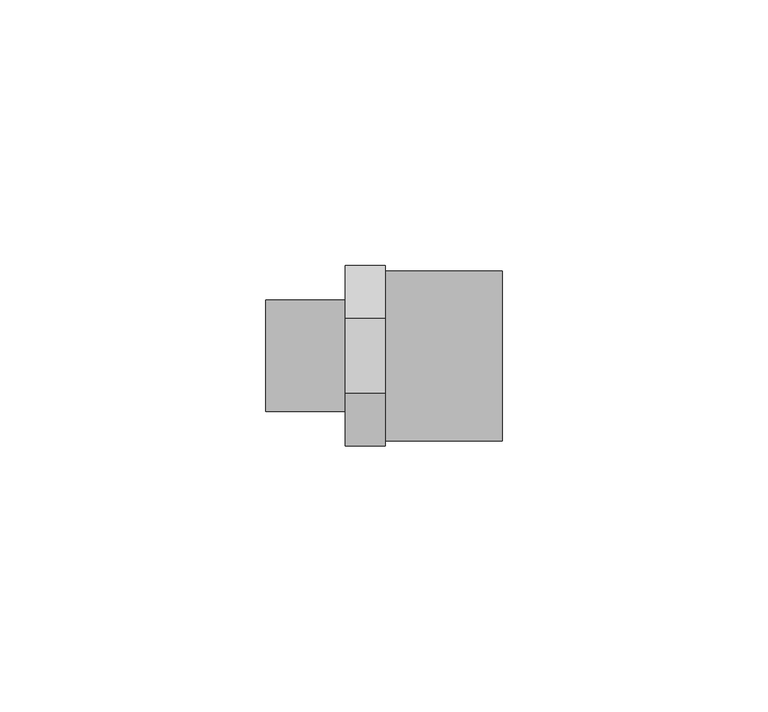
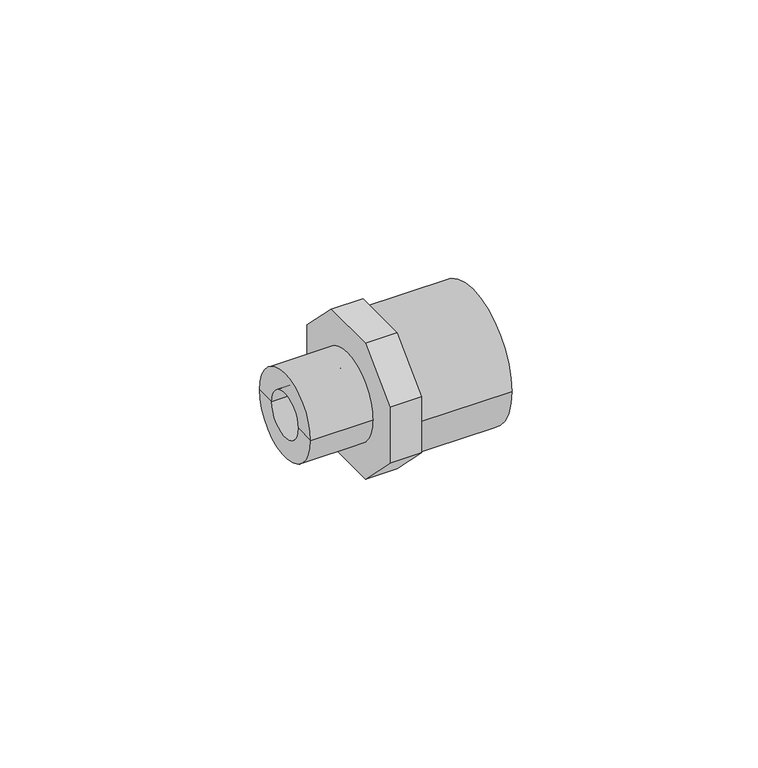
"""IFC4 building model written with IfcOpenShell, lengths in millimetres: pipe fitting geometry, Durapipe_PipeFitting_PVC_MaleThreadedAdaptors : 32 x 25 x 1⁄2."""

import ifcopenshell
import ifcopenshell.guid

model = None  # the IFC model being written
_history = None  # IfcOwnerHistory: only IFC2X3 demands one
_inside = {}  # id of a spatial element -> (the spatial element, [elements in it])
_under = {}  # id of a project, library or spatial element -> (it, [spatial elements below it])
_declared = {}  # id of a project -> (the project, [libraries it declares])
_typed = {}  # id of a type object -> (the type object, [elements of that type])
_made_of = {}  # id of a material, layer set ... -> (it, [elements and type objects made of it])


def new_model(schema):
    """Start an empty IFC model of exactly this schema.

    Asked for "IFC4X3", IfcOpenShell would pick the latest addendum, in which some entities
    have other attributes; the version numbers below select the first issue.
    IFC2X3 requires an IfcOwnerHistory on every rooted entity: one is made here for all.
    """
    global model, _history
    if schema == "IFC4X3":
        model = ifcopenshell.file(schema_version=(4, 3, 0, 0))
    else:
        model = ifcopenshell.file(schema=schema)
    _inside.clear()
    _under.clear()
    _declared.clear()
    _typed.clear()
    _made_of.clear()
    _history = None
    if model.schema == "IFC2X3":
        org = make("IfcOrganization", Name="unknown")
        user = make(
            "IfcPersonAndOrganization",
            ThePerson=make("IfcPerson", FamilyName="unknown"),
            TheOrganization=org,
        )
        app = make(
            "IfcApplication",
            ApplicationDeveloper=org,
            Version="unknown",
            ApplicationFullName="unknown",
            ApplicationIdentifier="unknown",
        )
        _history = make(
            "IfcOwnerHistory",
            OwningUser=user,
            OwningApplication=app,
            ChangeAction="ADDED",
            CreationDate=0,
        )
    return model


def make(cls, **values):
    """One entity of the class cls with the attributes given. An attribute that is None is left unset."""
    return model.create_entity(
        cls, **{name: value for name, value in values.items() if value is not None}
    )


def rooted(cls, **values):
    """An entity with a GlobalId (a new one), such as an element, a storey or a relation."""
    return make(cls, GlobalId=ifcopenshell.guid.new(), OwnerHistory=_history, **values)


def si_unit(unit_type, name, prefix=None):
    """IfcSIUnit, for example si_unit("LENGTHUNIT", "METRE", prefix="MILLI")."""
    return make("IfcSIUnit", UnitType=unit_type, Prefix=prefix, Name=name)


def assignment(units):
    """IfcUnitAssignment: the units of a project."""
    return None if units is None else make("IfcUnitAssignment", Units=units)


def point(xyz):
    """IfcCartesianPoint."""
    return None if xyz is None else make("IfcCartesianPoint", Coordinates=xyz)


def direction(xyz):
    """IfcDirection."""
    return None if xyz is None else make("IfcDirection", DirectionRatios=xyz)


def frame(location, z_axis=None, x_axis=None):
    """IfcAxis2Placement3D, a coordinate frame: its origin and axes. An axis left out is left unset."""
    return make(
        "IfcAxis2Placement3D",
        Location=point(location),
        Axis=direction(z_axis),
        RefDirection=direction(x_axis),
    )


def frame_2d(location, x_axis=None):
    """IfcAxis2Placement2D, a coordinate frame in the plane: its origin and x axis."""
    return make(
        "IfcAxis2Placement2D", Location=point(location), RefDirection=direction(x_axis)
    )


def origin():
    """The frame at (0, 0, 0) with its axes left unset."""
    return frame((0.0, 0.0, 0.0))


def origin_2d():
    """The frame at (0, 0) in the plane with its x axis left unset."""
    return frame_2d((0.0, 0.0))


def place(relative_to, where):
    """IfcLocalPlacement: puts the frame where relative to a parent placement (None: the world)."""
    return make(
        "IfcLocalPlacement", PlacementRelTo=relative_to, RelativePlacement=where
    )


def context(
    kind, dimensions, precision=None, world=None, true_north=None, identifier=None
):
    """IfcGeometricRepresentationContext, for example the 3D "Model" context."""
    return make(
        "IfcGeometricRepresentationContext",
        ContextIdentifier=identifier,
        ContextType=kind,
        CoordinateSpaceDimension=dimensions,
        Precision=precision,
        WorldCoordinateSystem=world,
        TrueNorth=true_north,
    )


def project(units=None, contexts=None):
    """IfcProject with its units and contexts."""
    return rooted(
        "IfcProject",
        Name="project",
        RepresentationContexts=contexts,
        UnitsInContext=assignment(units),
    )


def spatial(cls, under=None, at=None, **own):
    """A site, building, storey or space (cls), placed at a placement, below another one or the project."""
    s = rooted(cls, ObjectPlacement=at, **own)
    if under is not None:
        _under.setdefault(under.id(), (under, []))[1].append(s)
    return s


def polyline(points):
    """IfcPolyline through the points."""
    return make("IfcPolyline", Points=[point(p) for p in points])


def circle_curve(where, radius):
    """IfcCircle in the frame where."""
    return make("IfcCircle", Position=where, Radius=radius)


def trimmed(basis, trim1, trim2, sense, master):
    """IfcTrimmedCurve: the piece of a basis curve between two trims."""
    return make(
        "IfcTrimmedCurve",
        BasisCurve=basis,
        Trim1=trim1,
        Trim2=trim2,
        SenseAgreement=sense,
        MasterRepresentation=master,
    )


def segment(curve, same_sense, transition):
    """IfcCompositeCurveSegment."""
    return make(
        "IfcCompositeCurveSegment",
        Transition=transition,
        SameSense=same_sense,
        ParentCurve=curve,
    )


def composite_curve(segments, self_intersect=None):
    """IfcCompositeCurve: segments joined end to end."""
    return make("IfcCompositeCurve", Segments=segments, SelfIntersect=self_intersect)


def outline(outer, holes=None, kind="AREA"):
    """IfcArbitraryClosedProfileDef: a profile drawn as a closed curve; with holes, ...WithVoids."""
    if holes is None:
        return make("IfcArbitraryClosedProfileDef", ProfileType=kind, OuterCurve=outer)
    return make(
        "IfcArbitraryProfileDefWithVoids",
        ProfileType=kind,
        OuterCurve=outer,
        InnerCurves=holes,
    )


def extrude(swept, where, along, depth):
    """IfcExtrudedAreaSolid: the profile swept, set in the frame where, extruded along a direction by depth."""
    return make(
        "IfcExtrudedAreaSolid",
        SweptArea=swept,
        Position=where,
        ExtrudedDirection=direction(along),
        Depth=depth,
    )


def shape(context_of_items, identifier, shape_type, items):
    """IfcShapeRepresentation: the items that make up one representation, for example the "Body"."""
    return make(
        "IfcShapeRepresentation",
        ContextOfItems=context_of_items,
        RepresentationIdentifier=identifier,
        RepresentationType=shape_type,
        Items=items,
    )


def source(mapping_origin, context_of_items, identifier, shape_type, items):
    """IfcRepresentationMap: a shape defined once, which mapped items show again and again."""
    return make(
        "IfcRepresentationMap",
        MappingOrigin=mapping_origin,
        MappedRepresentation=shape(context_of_items, identifier, shape_type, items),
    )


def transform(
    local_origin,
    x_axis=None,
    y_axis=None,
    z_axis=None,
    scale=None,
    scale2=None,
    scale3=None,
    uniform=True,
):
    """IfcCartesianTransformationOperator3D, or its non-uniform kind. x_axis, y_axis, z_axis: its Axis1, 2, 3."""
    if uniform:
        return make(
            "IfcCartesianTransformationOperator3D",
            Axis1=direction(x_axis),
            Axis2=direction(y_axis),
            LocalOrigin=point(local_origin),
            Scale=scale,
            Axis3=direction(z_axis),
        )
    return make(
        "IfcCartesianTransformationOperator3DnonUniform",
        Axis1=direction(x_axis),
        Axis2=direction(y_axis),
        LocalOrigin=point(local_origin),
        Scale=scale,
        Axis3=direction(z_axis),
        Scale2=scale2,
        Scale3=scale3,
    )


def mapped(mapping_source, mapping_target):
    """IfcMappedItem: shows the shape of a source again, moved by a transform."""
    return make(
        "IfcMappedItem", MappingSource=mapping_source, MappingTarget=mapping_target
    )


def made_of(thing, what):
    """Note that an element or type object is made of a material, layer set ...; save() writes the relation."""
    if what is not None:
        _made_of.setdefault(what.id(), (what, []))[1].append(thing)
    return thing


def element(
    cls,
    number,
    at=None,
    inside=None,
    cuts=None,
    type_object=None,
    material=None,
    context=None,
    identifier="Body",
    shape_type=None,
    held_by="IfcProductDefinitionShape",
    body=None,
    shapes=None,
    **own,
):
    """One element of the class cls, such as IfcWall. Its Tag is "e" and its number.

    at: its placement. inside: the storey or other place that contains it. cuts: it is an
    opening in that element (IfcRelVoidsElement). A single representation is given by context,
    identifier, shape_type and body (its items); several are given by shapes. held_by: the class
    of the entity that holds the representations. save() writes the other relations.
    """
    e = rooted(cls, Tag="e%d" % number, ObjectPlacement=at, **own)
    if body is not None:
        shapes = [shape(context, identifier, shape_type, body)]
    if shapes is not None:
        e.Representation = make(held_by, Representations=shapes)
    if inside is not None:
        _inside.setdefault(inside.id(), (inside, []))[1].append(e)
    if cuts is not None:
        rooted(
            "IfcRelVoidsElement", RelatingBuildingElement=cuts, RelatedOpeningElement=e
        )
    if type_object is not None:
        _typed.setdefault(type_object.id(), (type_object, []))[1].append(e)
    return made_of(e, material)


def aggregate(whole, parts):
    """IfcRelAggregates: a whole, such as a stair, and the parts it consists of."""
    return rooted("IfcRelAggregates", RelatingObject=whole, RelatedObjects=parts)


def save(model, path):
    """Write the relations noted so far, then the file.

    IfcRelAggregates (storeys below a building ...), IfcRelContainedInSpatialStructure (elements
    in a storey), IfcRelDefinesByType, IfcRelAssociatesMaterial and IfcRelDeclares: one each for
    every whole, place, type object, material and project.
    """
    for whole, parts in _under.values():
        aggregate(whole, parts)
    for where, things in _inside.values():
        rooted(
            "IfcRelContainedInSpatialStructure",
            RelatedElements=things,
            RelatingStructure=where,
        )
    for kind, things in _typed.values():
        rooted("IfcRelDefinesByType", RelatedObjects=things, RelatingType=kind)
    for what, things in _made_of.values():
        rooted("IfcRelAssociatesMaterial", RelatedObjects=things, RelatingMaterial=what)
    for by, libraries in _declared.values():
        rooted("IfcRelDeclares", RelatingContext=by, RelatedDefinitions=libraries)
    model.write(path)


def plane_surface(at):
    """IfcPlane: the flat surface through the origin of the frame at, square to its z axis."""
    return make("IfcPlane", Position=at)


def cylinder_surface(at, radius):
    """IfcCylindricalSurface: all points at the distance radius from the z axis of the frame at."""
    return make("IfcCylindricalSurface", Position=at, Radius=radius)


def revolved_surface(curve, axis_point, axis_direction):
    """IfcSurfaceOfRevolution: the curve turned about the line through axis_point along axis_direction."""
    return make(
        "IfcSurfaceOfRevolution",
        SweptCurve=make("IfcArbitraryOpenProfileDef", ProfileType="CURVE", Curve=curve),
        AxisPosition=make("IfcAxis1Placement", Location=point(axis_point), Axis=direction(axis_direction)),
    )


def advanced_brep(points, edges, surfaces, faces):
    """IfcAdvancedBrep: a solid bounded by faces that lie on surfaces and meet in shared edges.

    An edge is (start, end): straight between two places in points (the first is 0);
    or (start, end, curve); or (start, end, curve, False) where it runs against its curve.
    A face is (place in surfaces, loops), or (place, loops, False) where it looks against
    its surface's normal. A loop lists edges by number (the first is 1), with a minus sign
    where the edge is run from its end to its start. The first loop is the outer one.
    """
    corners = [point(p) for p in points]
    vertices = [make("IfcVertexPoint", VertexGeometry=c) for c in corners]
    made = []
    for start, end, *more in edges:
        made.append(
            make(
                "IfcEdgeCurve",
                EdgeStart=vertices[start],
                EdgeEnd=vertices[end],
                EdgeGeometry=more[0] if more else make("IfcPolyline", Points=[corners[start], corners[end]]),
                SameSense=more[1] if len(more) > 1 else True,
            )
        )
    hull = []
    for where, loops, *sense in faces:
        bounds = []
        for j, loop in enumerate(loops):
            ring = [make("IfcOrientedEdge", EdgeElement=made[abs(k) - 1], Orientation=k > 0) for k in loop]
            bounds.append(
                make(
                    "IfcFaceOuterBound" if j == 0 else "IfcFaceBound",
                    Bound=make("IfcEdgeLoop", EdgeList=ring),
                    Orientation=True,
                )
            )
        hull.append(make("IfcAdvancedFace", Bounds=bounds, FaceSurface=surfaces[where], SameSense=sense[0] if sense else True))
    return make("IfcAdvancedBrep", Outer=make("IfcClosedShell", CfsFaces=hull))


def pipe_fitting_c904c121(model_context):
    return source(origin(), model_context, "Body", "SolidModel", [
        extrude(outline(polyline([(17.0, 7.0416306), (17.0, -7.0416306), (7.0416306, -17.0), (-7.0416306, -17.0), (-17.0, -7.0416306), (-17.0, 7.0416306), (-7.0416306, 17.0), (7.0416306, 17.0), (17.0, 7.0416306)]), holes=[composite_curve([segment(trimmed(circle_curve(origin_2d(), 5.5), [point((5.5, 0.0))], [point((-5.5, 0.0))], True, "CARTESIAN"), True, "CONTINUOUS"), segment(trimmed(circle_curve(origin_2d(), 5.5), [point((-5.5, 0.0))], [point((5.5, 0.0))], True, "CARTESIAN"), True, "CONTINUOUS")], self_intersect=False)]), frame((-7.5, 0.0, 0.0), z_axis=(1.0, 0.0, 0.0), x_axis=(0.0, 1.0, 0.0)), (0.0, 0.0, 1.0), 7.5),
        advanced_brep(
        [(0.0, -16.0, 0.0), (0.0, 16.0, 0.0), (22.0, 16.0, 0.0), (22.0, -16.0, 0.0), (22.0, 12.5, 0.0), (22.0, -12.5, 0.0), (0.0, 0.0, 0.0), (3.0, 12.5, 0.0), (3.0, -12.5, 0.0), (3.0, 0.0, 0.0)],
        [
            (0, 1, circle_curve(frame((0.0, 0.0, 0.0), z_axis=(1.0, 0.0, 0.0), x_axis=(0.0, 1.0, 0.0)), 16.0)),
            (1, 2),
            (2, 3, circle_curve(frame((22.0, 0.0, 0.0), z_axis=(-1.0, 0.0, 0.0), x_axis=(0.0, 1.0, 0.0)), 16.0)),
            (3, 0),
            (1, 0, circle_curve(frame((0.0, 0.0, 0.0), z_axis=(1.0, 0.0, 0.0), x_axis=(0.0, 1.0, 0.0)), 16.0)),
            (3, 2, circle_curve(frame((22.0, 0.0, 0.0), z_axis=(-1.0, 0.0, 0.0), x_axis=(0.0, 1.0, 0.0)), 16.0)),
            (2, 4),
            (4, 5, circle_curve(frame((22.0, 0.0, 0.0), z_axis=(-1.0, 0.0, 0.0), x_axis=(0.0, 1.0, 0.0)), 12.5)),
            (5, 3),
            (5, 4, circle_curve(frame((22.0, 0.0, 0.0), z_axis=(-1.0, 0.0, 0.0), x_axis=(0.0, 1.0, 0.0)), 12.5)),
            (0, 6),
            (6, 1),
            (7, 8, circle_curve(frame((3.0, 0.0, 0.0), z_axis=(-1.0, 0.0, 0.0), x_axis=(0.0, 1.0, 0.0)), 12.5)),
            (8, 5),
            (4, 7),
            (8, 7, circle_curve(frame((3.0, 0.0, 0.0), z_axis=(-1.0, 0.0, 0.0), x_axis=(0.0, 1.0, 0.0)), 12.5)),
            (7, 9),
            (9, 8),
        ],
        [
            cylinder_surface(frame((423.4572068, 0.0, 0.0), z_axis=(-1.0, 0.0, 0.0), x_axis=(0.0, 1.0, 0.0)), 16.0),
            plane_surface(frame((22.0, 0.0, 0.0), z_axis=(1.0, 0.0, 0.0), x_axis=(0.0, 1.0, 0.0))),
            plane_surface(frame((0.0, 0.0, 0.0), z_axis=(-1.0, 0.0, 0.0), x_axis=(0.0, 1.0, 0.0))),
            revolved_surface(polyline([(3.0, 12.5, 0.0), (22.0, 12.5, 0.0)]), (35.5575137, 0.0, 0.0), (-1.0, 0.0, 0.0)),
            plane_surface(frame((3.0, 0.0, 0.0), z_axis=(1.0, 0.0, 0.0), x_axis=(0.0, 1.0, 0.0))),
        ],
        [
            (0, [[1, 2, 3, 4]]),
            (0, [[-2, 5, -4, 6]]),
            (1, [[-3, 7, 8, 9]]),
            (1, [[-6, -9, 10, -7]]),
            (2, [[-1, 11, 12]]),
            (2, [[-5, -12, -11]]),
            (3, [[13, 14, -8, 15]]),
            (3, [[16, -15, -10, -14]]),
            (4, [[-13, 17, 18]]),
            (4, [[-16, -18, -17]]),
        ],
    ),
        advanced_brep(
        [(-7.5, -5.5, 0.0), (-7.5, 5.5, 0.0), (-22.5, 5.5, 0.0), (-22.5, -5.5, 0.0), (-7.5, -10.5, 0.0), (-7.5, 10.5, 0.0), (-22.5, -10.5, 0.0), (-22.5, 10.5, 0.0)],
        [
            (0, 1, circle_curve(frame((-7.5, 0.0, 0.0), z_axis=(1.0, 0.0, 0.0), x_axis=(0.0, 1.0, 0.0)), 5.5)),
            (1, 2),
            (2, 3, circle_curve(frame((-22.5, 0.0, 0.0), z_axis=(-1.0, 0.0, 0.0), x_axis=(0.0, 1.0, 0.0)), 5.5)),
            (3, 0),
            (1, 0, circle_curve(frame((-7.5, 0.0, 0.0), z_axis=(1.0, 0.0, 0.0), x_axis=(0.0, 1.0, 0.0)), 5.5)),
            (3, 2, circle_curve(frame((-22.5, 0.0, 0.0), z_axis=(-1.0, 0.0, 0.0), x_axis=(0.0, 1.0, 0.0)), 5.5)),
            (4, 5, circle_curve(frame((-7.5, 0.0, 0.0), z_axis=(1.0, 0.0, 0.0), x_axis=(0.0, 1.0, 0.0)), 10.5)),
            (5, 1),
            (0, 4),
            (5, 4, circle_curve(frame((-7.5, 0.0, 0.0), z_axis=(1.0, 0.0, 0.0), x_axis=(0.0, 1.0, 0.0)), 10.5)),
            (6, 7, circle_curve(frame((-22.5, 0.0, 0.0), z_axis=(1.0, 0.0, 0.0), x_axis=(0.0, 1.0, 0.0)), 10.5)),
            (7, 5),
            (4, 6),
            (7, 6, circle_curve(frame((-22.5, 0.0, 0.0), z_axis=(1.0, 0.0, 0.0), x_axis=(0.0, 1.0, 0.0)), 10.5)),
            (2, 7),
            (6, 3),
        ],
        [
            revolved_surface(polyline([(-22.5, 5.5, 0.0), (-7.5, 5.5, 0.0)]), (-37.5, 0.0, 0.0), (-1.0, 0.0, 0.0)),
            plane_surface(frame((-7.5, 0.0, 0.0), z_axis=(1.0, 0.0, 0.0), x_axis=(0.0, 1.0, 0.0))),
            cylinder_surface(frame((-37.5, 0.0, 0.0), z_axis=(-1.0, 0.0, 0.0), x_axis=(0.0, 1.0, 0.0)), 10.5),
            plane_surface(frame((-22.5, 0.0, 0.0), z_axis=(-1.0, 0.0, 0.0), x_axis=(0.0, 1.0, 0.0))),
        ],
        [
            (0, [[1, 2, 3, 4]]),
            (0, [[5, -4, 6, -2]]),
            (1, [[7, 8, -1, 9]]),
            (1, [[10, -9, -5, -8]]),
            (2, [[11, 12, -7, 13]]),
            (2, [[14, -13, -10, -12]]),
            (3, [[-3, 15, -11, 16]]),
            (3, [[-6, -16, -14, -15]]),
        ],
    ),
    ])


if __name__ == "__main__":
    model = new_model("IFC4")
    model_context = context("Model", 3, world=origin())
    ifc_project = project(units=[si_unit("LENGTHUNIT", "METRE", prefix="MILLI")], contexts=[model_context])
    site = spatial("IfcSite", under=ifc_project)
    building = spatial("IfcBuilding", under=site)
    placement = place(None, origin())
    pipe_fitting_shape = pipe_fitting_c904c121(model_context)
    element("IfcPipeFitting", 1, ObjectType="Durapipe_PipeFitting_PVC_MaleThreadedAdaptors : 32 x 25 x 1⁄2", at=placement, inside=building, context=model_context, shape_type="MappedRepresentation", body=[
        mapped(pipe_fitting_shape, transform((0.0, 0.0, 0.0), x_axis=(1.0, 0.0, 0.0), y_axis=(0.0, 1.0, 0.0), z_axis=(0.0, 0.0, 1.0))),
    ])
    save(model, "model.ifc")
